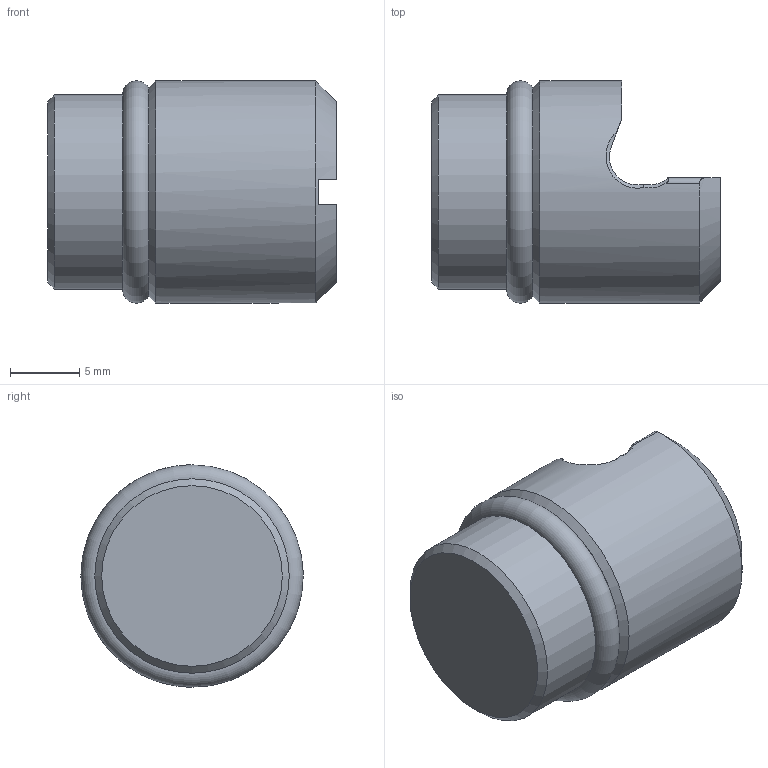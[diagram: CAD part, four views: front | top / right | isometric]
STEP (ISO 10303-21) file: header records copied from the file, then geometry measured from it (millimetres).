
FILE_DESCRIPTION (( 'STEP AP214' ), '1' );
FILE_NAME ('6921884037000.STEP', '2020-11-27T07:55:28', ( '' ), ( '' ), 'SwSTEP 2.0', 'SolidWorks 2018', '' );
FILE_SCHEMA (( 'AUTOMOTIVE_DESIGN' ));
Length unit declared in the file: millimetre
Products named in the file (1): 6921884037000
Bounding box: 20.8 x 16 x 16 mm (x, y, z)
Volume: 3193.6 mm3; surface area: 1637.7 mm2
Topology: 2 solids, 2 shells, 27 faces, 65 edges, 41 vertices
Faces by surface type: plane 10, cylinder 7, cone 4, bspline 4, torus 2
Full cylindrical faces by diameter (mm): 12 x1, 14 x1, 16 x1
Entity records: 974 total; most frequent: CARTESIAN_POINT 382, ORIENTED_EDGE 108, DIRECTION 91, EDGE_CURVE 54, VERTEX_POINT 38, AXIS2_PLACEMENT_3D 37, EDGE_LOOP 34, FACE_OUTER_BOUND 30
